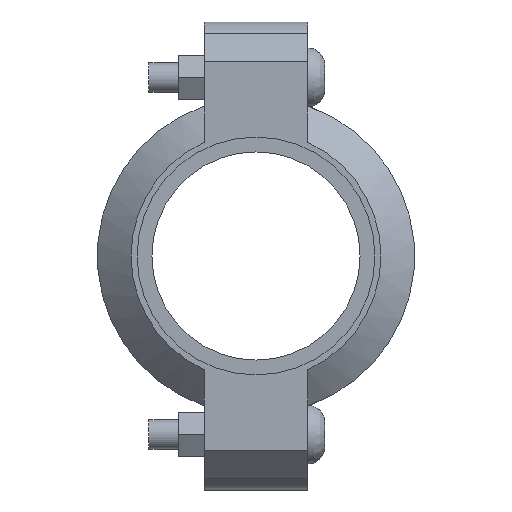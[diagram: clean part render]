
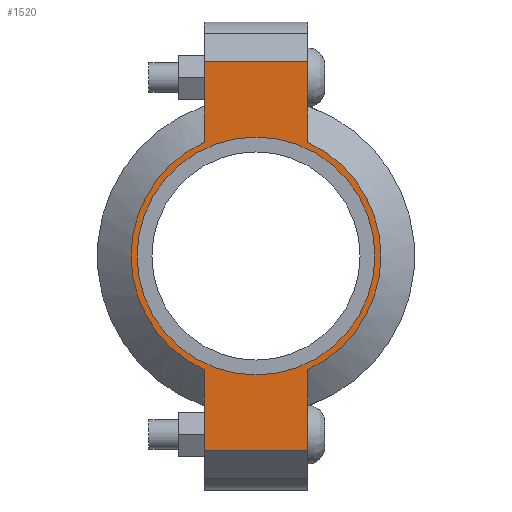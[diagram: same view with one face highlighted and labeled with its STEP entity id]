
A CAD part, left-side view. The second image highlights one B-rep face of the part: STEP entity #1520.
In plain terms, the highlighted planar face has unit normal (-1, 0, 0) as drawn and (0, 0, 1) by its records, which use the part's own axes.
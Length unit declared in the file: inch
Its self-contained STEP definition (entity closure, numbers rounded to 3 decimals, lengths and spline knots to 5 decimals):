
#126=LINE('',#2667,#221);
#139=LINE('',#2711,#234);
#144=LINE('',#2735,#239);
#151=LINE('',#2753,#246);
#158=LINE('',#2778,#253);
#159=LINE('',#2781,#254);
#221=VECTOR('',#2157,0.3937);
#234=VECTOR('',#2186,0.3937);
#239=VECTOR('',#2197,0.3937);
#246=VECTOR('',#2214,0.3937);
#253=VECTOR('',#2235,0.3937);
#254=VECTOR('',#2240,0.3937);
#306=FACE_BOUND('',#484,.T.);
#379=FACE_OUTER_BOUND('',#483,.T.);
#483=EDGE_LOOP('',(#1275,#1276,#1277,#1278,#1279,#1280,#1281,#1282));
#484=EDGE_LOOP('',(#1283));
#553=CIRCLE('',#1737,1.5);
#581=CIRCLE('',#1800,1.575);
#582=CIRCLE('',#1801,1.575);
#645=VERTEX_POINT('',#2455);
#688=VERTEX_POINT('',#2662);
#689=VERTEX_POINT('',#2666);
#705=VERTEX_POINT('',#2708);
#706=VERTEX_POINT('',#2710);
#712=VERTEX_POINT('',#2730);
#713=VERTEX_POINT('',#2734);
#718=VERTEX_POINT('',#2750);
#719=VERTEX_POINT('',#2752);
#803=EDGE_CURVE('',#645,#645,#553,.T.);
#865=EDGE_CURVE('',#689,#688,#126,.T.);
#885=EDGE_CURVE('',#706,#705,#139,.T.);
#894=EDGE_CURVE('',#713,#712,#144,.T.);
#903=EDGE_CURVE('',#719,#718,#151,.T.);
#915=EDGE_CURVE('',#713,#705,#158,.T.);
#916=EDGE_CURVE('',#712,#719,#581,.T.);
#917=EDGE_CURVE('',#689,#718,#159,.T.);
#918=EDGE_CURVE('',#688,#706,#582,.T.);
#1275=ORIENTED_EDGE('',*,*,#915,.F.);
#1276=ORIENTED_EDGE('',*,*,#894,.T.);
#1277=ORIENTED_EDGE('',*,*,#916,.T.);
#1278=ORIENTED_EDGE('',*,*,#903,.T.);
#1279=ORIENTED_EDGE('',*,*,#917,.F.);
#1280=ORIENTED_EDGE('',*,*,#865,.T.);
#1281=ORIENTED_EDGE('',*,*,#918,.T.);
#1282=ORIENTED_EDGE('',*,*,#885,.T.);
#1283=ORIENTED_EDGE('',*,*,#803,.T.);
#1361=PLANE('',#1799);
#1520=ADVANCED_FACE('',(#379,#306),#1361,.T.);
#1737=AXIS2_PLACEMENT_3D('',#2457,#2037,#2038);
#1799=AXIS2_PLACEMENT_3D('',#2779,#2236,#2237);
#1800=AXIS2_PLACEMENT_3D('',#2780,#2238,#2239);
#1801=AXIS2_PLACEMENT_3D('',#2782,#2241,#2242);
#2037=DIRECTION('center_axis',(0.,0.,-1.));
#2038=DIRECTION('ref_axis',(-1.,0.,0.));
#2157=DIRECTION('',(-1.,0.,0.));
#2186=DIRECTION('',(-1.,0.,0.));
#2197=DIRECTION('',(1.,0.,0.));
#2214=DIRECTION('',(1.,0.,0.));
#2235=DIRECTION('',(0.,1.,0.));
#2236=DIRECTION('center_axis',(0.,0.,1.));
#2237=DIRECTION('ref_axis',(1.,0.,0.));
#2238=DIRECTION('center_axis',(0.,0.,1.));
#2239=DIRECTION('ref_axis',(-1.,0.,0.));
#2240=DIRECTION('',(0.,-1.,0.));
#2241=DIRECTION('center_axis',(0.,0.,1.));
#2242=DIRECTION('ref_axis',(-1.,0.,0.));
#2455=CARTESIAN_POINT('',(1.5,0.,0.94));
#2457=CARTESIAN_POINT('Origin',(0.,0.,0.94));
#2662=CARTESIAN_POINT('',(1.43462,0.65,0.94));
#2666=CARTESIAN_POINT('',(2.45,0.65,0.94));
#2667=CARTESIAN_POINT('',(-2.95,0.65,0.94));
#2708=CARTESIAN_POINT('',(-2.45,0.65,0.94));
#2710=CARTESIAN_POINT('',(-1.43462,0.65,0.94));
#2711=CARTESIAN_POINT('',(-2.95,0.65,0.94));
#2730=CARTESIAN_POINT('',(-1.43462,-0.65,0.94));
#2734=CARTESIAN_POINT('',(-2.45,-0.65,0.94));
#2735=CARTESIAN_POINT('',(2.95,-0.65,0.94));
#2750=CARTESIAN_POINT('',(2.45,-0.65,0.94));
#2752=CARTESIAN_POINT('',(1.43462,-0.65,0.94));
#2753=CARTESIAN_POINT('',(2.95,-0.65,0.94));
#2778=CARTESIAN_POINT('',(-2.45,0.325,0.94));
#2779=CARTESIAN_POINT('Origin',(0.,0.,
0.94));
#2780=CARTESIAN_POINT('Origin',(0.,0.,0.94));
#2781=CARTESIAN_POINT('',(2.45,-0.325,0.94));
#2782=CARTESIAN_POINT('Origin',(0.,0.,0.94));
